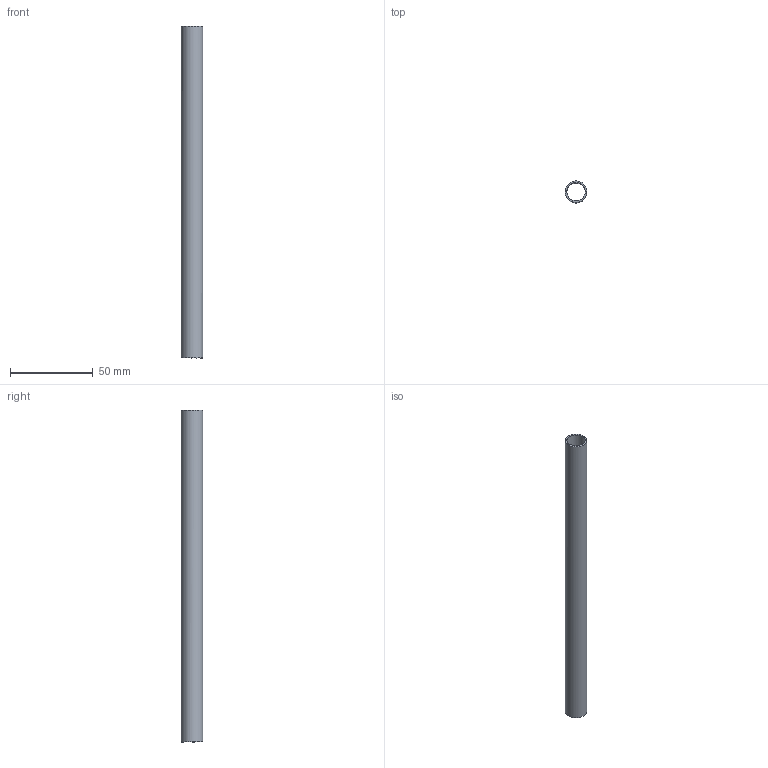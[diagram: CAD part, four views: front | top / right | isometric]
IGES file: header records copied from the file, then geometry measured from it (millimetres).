
Global section: file name: C16-LST-13-200; native system: Autodesk Inventor 2020; preprocessor: unknown; author: y.ota; date: 20201028.162810; units: millimetre
Bounding box: 13 x 12.98 x 200 mm (x, y, z)
Volume: 7521.1 mm3; surface area: 15170.1 mm2
Topology: 1 solids, 1 shells, 4 faces, 8 edges, 6 vertices
Faces by surface type: bspline 4
